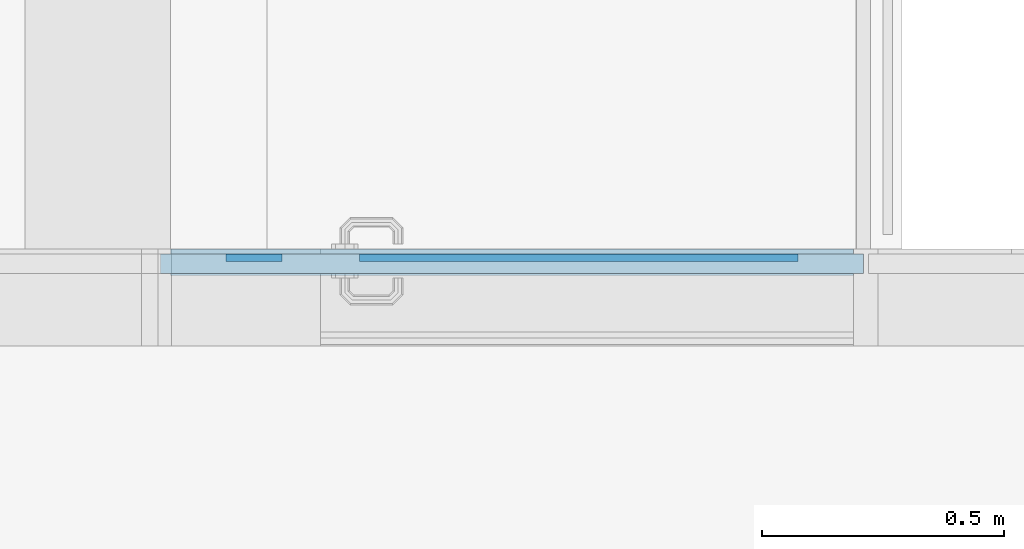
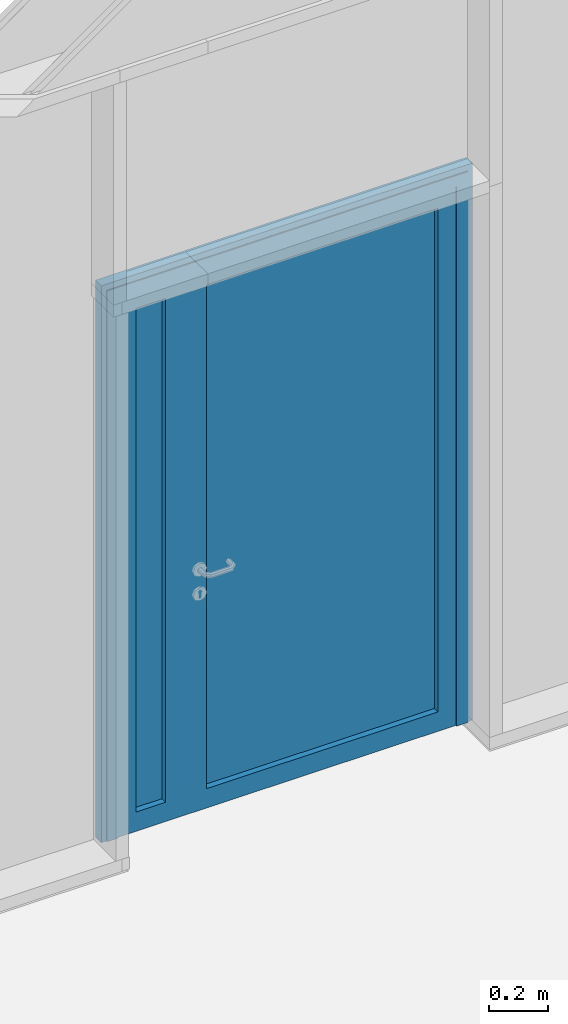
# One storey, part 62 of 153: 2 building element parts, 2 elements without a shape of their own.
"""IFC2X3 building model written with IfcOpenShell, lengths in millimetres."""

from ifc_helpers import new_model, entity, si_unit, converted_unit, derived_unit, money_unit, direction, frame, origin_with_axes, place, context, subcontext, project, spatial, faceted_brep, material, type_object, element, aggregate, save


model = new_model("IFC2X3")

# Units and contexts
model_context = context("Model", 3, precision=0.01, world=origin_with_axes(), true_north=direction((0.0, 1.0)))
body_context = subcontext(model_context, "Body", "Model", "MODEL_VIEW")
ifc_project = project(units=[si_unit("LENGTHUNIT", "METRE", prefix="MILLI"), si_unit("AREAUNIT", "SQUARE_METRE"), si_unit("VOLUMEUNIT", "CUBIC_METRE"), converted_unit("PLANEANGLEUNIT", "DEGREE", entity("IfcPlaneAngleMeasure", 0.0174532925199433), si_unit("PLANEANGLEUNIT", "RADIAN"), dimensions=[0, 0, 0, 0, 0, 0, 0]), money_unit("EUR"), converted_unit("TIMEUNIT", "Year", entity("IfcTimeMeasure", 31557600.0), si_unit("TIMEUNIT", "SECOND"), dimensions=[0, 0, 1, 0, 0, 0, 0]), si_unit("MASSUNIT", "GRAM", prefix="KILO"), si_unit("THERMODYNAMICTEMPERATUREUNIT", "DEGREE_CELSIUS"), si_unit("LUMINOUSINTENSITYUNIT", "LUMEN"), si_unit("ENERGYUNIT", "JOULE", prefix="MEGA"), derived_unit("THERMALCONDUCTANCEUNIT", [(si_unit("POWERUNIT", "WATT"), 1), (si_unit("LENGTHUNIT", "METRE"), -1), (si_unit("THERMODYNAMICTEMPERATUREUNIT", "KELVIN"), -1)]), derived_unit("SPECIFICHEATCAPACITYUNIT", [(si_unit("ENERGYUNIT", "JOULE"), 1), (si_unit("MASSUNIT", "GRAM", prefix="KILO"), -1), (si_unit("THERMODYNAMICTEMPERATUREUNIT", "KELVIN"), -1)]), derived_unit("MASSDENSITYUNIT", [(si_unit("MASSUNIT", "GRAM", prefix="KILO"), 1), (si_unit("VOLUMEUNIT", "CUBIC_METRE"), -1)])], contexts=[model_context])

# Site, building, storey
site_placement = place(None, frame((0.0, 0.0, 8650.0), z_axis=(0.0, 0.0, 1.0), x_axis=(1.0, 0.0, 0.0)))
site = spatial("IfcSite", under=ifc_project, at=site_placement, Name="43301:001:0844", CompositionType="ELEMENT")
building_placement = place(site_placement, origin_with_axes())
building = spatial("IfcBuilding", under=site, at=building_placement, Name="Kuressaare Ametikooli tuulikute mehaanikute õppekorpus", CompositionType="ELEMENT")
storey_placement = place(building_placement, frame((0.0, 0.0, 4100.0), z_axis=(0.0, 0.0, 1.0), x_axis=(1.0, 0.0, 0.0)))
storey = spatial("IfcBuildingStorey", under=building, at=storey_placement, Name="2.korrus", CompositionType="ELEMENT", Elevation=4100.0)

# Curtain wall, door, building element parts
curtain_wall_type = type_object("IfcCurtainWallType", Name="Curtain Wall Type", PredefinedType="NOTDEFINED")
curtain_wall_placement = place(storey_placement, frame((107592.1026822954, 26479.57374875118, 34.9999663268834), z_axis=(0.0, 0.0, 1.0), x_axis=(1.0, 0.0, 0.0)))
curtain_wall = element("IfcCurtainWall", 1, at=curtain_wall_placement, inside=storey, type_object=curtain_wall_type, Name="SKF-2.1,EI60")
door_style = type_object("IfcDoorStyle", Name="20 x 5 x 40", ConstructionType="NOTDEFINED", OperationType="DOUBLE_DOOR_SINGLE_SWING", ParameterTakesPrecedence=False, Sizeable=False)
door_placement = place(curtain_wall_placement, frame((-1273.110262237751, 0.0, 1022.222227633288), z_axis=(0.0, 0.0, 1.0), x_axis=(1.0, 0.0, 0.0)))
door = element("IfcDoor", 2, at=door_placement, type_object=door_style, Name="AKU10+4,EI30", OverallHeight=2275.0, OverallWidth=1410.0)
aggregate(curtain_wall, [door])
ifc_material_1 = material(Name="Aluminium")
building_element_part_1_placement = place(door_placement, origin_with_axes())
building_element_part_1 = element("IfcBuildingElementPart", 3, at=building_element_part_1_placement, material=ifc_material_1, Name="Aluminium", context=body_context, shape_type="Brep", body=[
    faceted_brep([(798.110245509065, -25.00000000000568, -1022.222227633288), (798.110245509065, -20.00000000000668, -1022.222227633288), (798.110245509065, -20.00000000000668, 1252.777807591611), (798.110245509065, -25.00000000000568, 1252.777807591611), (753.1102455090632, -25.00000000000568, -1022.222227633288), (753.1102455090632, -20.00000000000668, -1022.222227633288), (753.1102455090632, -20.00000000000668, 1207.777807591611), (753.1102455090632, -25.00000000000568, 1207.777807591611)], [[[0, 1, 2, 3]], [[4, 5, 1, 0]], [[1, 5, 6, 2]], [[3, 2, 6, 7]], [[0, 3, 7, 4]], [[7, 6, 5, 4]]]),
    faceted_brep([(-611.8897602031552, -25.00000000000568, 1252.777807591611), (-611.8897602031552, -20.00000000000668, 1252.777807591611), (-566.8897602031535, -20.00000000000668, 1207.777807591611), (-566.8897602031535, -25.00000000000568, 1207.777807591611), (798.110245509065, -25.00000000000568, 1252.777807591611), (798.110245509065, -20.00000000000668, 1252.777807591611), (753.1102455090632, -20.00000000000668, 1207.777807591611), (753.1102455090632, -25.00000000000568, 1207.777807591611)], [[[0, 1, 2, 3]], [[4, 5, 1, 0]], [[1, 5, 6, 2]], [[3, 2, 6, 7]], [[0, 3, 7, 4]], [[7, 6, 5, 4]]]),
    faceted_brep([(-611.8897602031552, -25.00000000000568, -1022.222227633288), (-611.8897602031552, -20.00000000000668, -1022.222227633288), (-566.8897602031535, -20.00000000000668, -1022.222227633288), (-566.8897602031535, -25.00000000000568, -1022.222227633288), (-611.8897602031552, -25.00000000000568, 1252.777807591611), (-611.8897602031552, -20.00000000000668, 1252.777807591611), (-566.8897602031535, -20.00000000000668, 1207.777807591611), (-566.8897602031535, -25.00000000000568, 1207.777807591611)], [[[0, 1, 2, 3]], [[4, 5, 1, 0]], [[1, 5, 6, 2]], [[3, 2, 6, 7]], [[0, 3, 7, 4]], [[7, 6, 5, 4]]]),
    faceted_brep([(798.110245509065, -20.00000000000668, -1022.222227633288), (798.110245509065, 29.99999999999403, -1022.222227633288), (798.110245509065, 29.99999999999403, 1252.777807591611), (798.110245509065, -20.00000000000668, 1252.777807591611), (763.1102455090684, -20.00000000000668, -1022.222227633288), (763.1102455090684, 29.99999999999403, -1022.222227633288), (763.1102455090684, 29.99999999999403, 1217.777807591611), (763.1102455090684, -20.00000000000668, 1217.777807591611)], [[[0, 1, 2, 3]], [[4, 5, 1, 0]], [[1, 5, 6, 2]], [[3, 2, 6, 7]], [[0, 3, 7, 4]], [[7, 6, 5, 4]]]),
    faceted_brep([(-611.8897602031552, -20.00000000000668, 1252.777807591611), (-611.8897602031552, 29.99999999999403, 1252.777807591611), (-576.8897602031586, 29.99999999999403, 1217.777807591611), (-576.8897602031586, -20.00000000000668, 1217.777807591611), (798.110245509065, -20.00000000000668, 1252.777807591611), (798.110245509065, 29.99999999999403, 1252.777807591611), (763.1102455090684, 29.99999999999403, 1217.777807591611), (763.1102455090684, -20.00000000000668, 1217.777807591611)], [[[0, 1, 2, 3]], [[4, 5, 1, 0]], [[1, 5, 6, 2]], [[3, 2, 6, 7]], [[0, 3, 7, 4]], [[7, 6, 5, 4]]]),
    faceted_brep([(-611.8897602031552, -20.00000000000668, -1022.222227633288), (-611.8897602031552, 29.99999999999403, -1022.222227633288), (-576.8897602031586, 29.99999999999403, -1022.222227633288), (-576.8897602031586, -20.00000000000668, -1022.222227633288), (-611.8897602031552, -20.00000000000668, 1252.777807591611), (-611.8897602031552, 29.99999999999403, 1252.777807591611), (-576.8897602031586, 29.99999999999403, 1217.777807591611), (-576.8897602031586, -20.00000000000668, 1217.777807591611)], [[[0, 1, 2, 3]], [[4, 5, 1, 0]], [[1, 5, 6, 2]], [[3, 2, 6, 7]], [[0, 3, 7, 4]], [[7, 6, 5, 4]]]),
    faceted_brep([(818.1102531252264, -20.00000000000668, -1022.222227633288), (818.1102531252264, 19.99999999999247, -1022.222227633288), (818.1102531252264, 19.99999999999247, 1277.777791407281), (818.1102531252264, -20.00000000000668, 1277.777791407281), (798.110245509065, -20.00000000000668, -1022.222227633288), (798.110245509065, 19.99999999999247, -1022.222227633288), (798.110245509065, 19.99999999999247, 1252.777807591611), (798.110245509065, -20.00000000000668, 1252.777807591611)], [[[0, 1, 2, 3]], [[4, 5, 1, 0]], [[1, 5, 6, 2]], [[3, 2, 6, 7]], [[0, 3, 7, 4]], [[7, 6, 5, 4]]]),
    faceted_brep([(818.1102531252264, -20.00000000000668, 1277.777791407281), (818.1102531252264, 19.99999999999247, 1277.777791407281), (-631.8897335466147, 19.99999999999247, 1277.777791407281), (-631.8897335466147, -20.00000000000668, 1277.777791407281), (798.110245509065, -20.00000000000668, 1252.777807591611), (798.110245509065, 19.99999999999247, 1252.777807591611), (-611.8897602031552, 19.99999999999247, 1252.777807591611), (-611.8897602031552, -20.00000000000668, 1252.777807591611)], [[[0, 1, 2, 3]], [[4, 5, 1, 0]], [[1, 5, 6, 2]], [[3, 2, 6, 7]], [[0, 3, 7, 4]], [[7, 6, 5, 4]]]),
    faceted_brep([(-631.8897335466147, -20.00000000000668, 1277.777791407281), (-631.8897335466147, 19.99999999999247, 1277.777791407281), (-631.8897335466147, 19.99999999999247, -1022.222227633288), (-631.8897335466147, -20.00000000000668, -1022.222227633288), (-611.8897602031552, -20.00000000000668, 1252.777807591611), (-611.8897602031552, 19.99999999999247, 1252.777807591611), (-611.8897602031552, 19.99999999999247, -1022.222227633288), (-611.8897602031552, -20.00000000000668, -1022.222227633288)], [[[0, 1, 2, 3]], [[4, 5, 1, 0]], [[1, 5, 6, 2]], [[3, 2, 6, 7]], [[0, 3, 7, 4]], [[7, 6, 5, 4]]]),
    faceted_brep([(-496.8897602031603, -20.00000000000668, -942.2222276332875), (-496.8897602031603, 29.99999999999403, -942.2222276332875), (-496.8897602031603, 29.99999999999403, 1137.77780759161), (-496.8897602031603, -20.00000000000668, 1137.77780759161), (-576.8897602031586, -20.00000000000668, -1022.222227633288), (-576.8897602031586, 29.99999999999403, -1022.222227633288), (-576.8897602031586, 29.99999999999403, 1217.77780759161), (-576.8897602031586, -20.00000000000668, 1217.77780759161)], [[[0, 1, 2, 3]], [[4, 5, 1, 0]], [[1, 5, 6, 2]], [[3, 2, 6, 7]], [[0, 3, 7, 4]], [[7, 6, 5, 4]]]),
    faceted_brep([(-301.8897602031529, -20.00000000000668, -1022.222227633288), (-301.8897602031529, 29.99999999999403, -1022.222227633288), (-301.8897602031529, 29.99999999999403, 1217.77780759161), (-301.8897602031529, -20.00000000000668, 1217.77780759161), (-381.8897602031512, -20.00000000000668, -942.2222276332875), (-381.8897602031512, 29.99999999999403, -942.2222276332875), (-381.8897602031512, 29.99999999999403, 1137.77780759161), (-381.8897602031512, -20.00000000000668, 1137.77780759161)], [[[0, 1, 2, 3]], [[4, 5, 1, 0]], [[1, 5, 6, 2]], [[3, 2, 6, 7]], [[0, 3, 7, 4]], [[7, 6, 5, 4]]]),
    faceted_brep([(-301.8897602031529, -20.00000000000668, -1022.222227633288), (-301.8897602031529, 29.99999999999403, -1022.222227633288), (-381.8897602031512, 29.99999999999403, -942.2222276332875), (-381.8897602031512, -20.00000000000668, -942.2222276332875), (-576.8897602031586, -20.00000000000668, -1022.222227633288), (-576.8897602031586, 29.99999999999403, -1022.222227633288), (-496.8897602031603, 29.99999999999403, -942.2222276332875), (-496.8897602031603, -20.00000000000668, -942.2222276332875)], [[[0, 1, 2, 3]], [[4, 5, 1, 0]], [[1, 5, 6, 2]], [[3, 2, 6, 7]], [[0, 3, 7, 4]], [[7, 6, 5, 4]]]),
    faceted_brep([(-576.8897602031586, -20.00000000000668, 1217.77780759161), (-576.8897602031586, 29.99999999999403, 1217.77780759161), (-496.8897602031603, 29.99999999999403, 1137.77780759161), (-496.8897602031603, -20.00000000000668, 1137.77780759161), (-301.8897602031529, -20.00000000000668, 1217.77780759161), (-301.8897602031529, 29.99999999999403, 1217.77780759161), (-381.8897602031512, 29.99999999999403, 1137.77780759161), (-381.8897602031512, -20.00000000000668, 1137.77780759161)], [[[0, 1, 2, 3]], [[4, 5, 1, 0]], [[1, 5, 6, 2]], [[3, 2, 6, 7]], [[0, 3, 7, 4]], [[7, 6, 5, 4]]]),
    faceted_brep([(-221.8897602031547, -20.00000000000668, -942.2222276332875), (-221.8897602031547, 29.99999999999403, -942.2222276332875), (-221.8897602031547, 29.99999999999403, 1137.77780759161), (-221.8897602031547, -20.00000000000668, 1137.77780759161), (-301.8897602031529, -20.00000000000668, -1022.222227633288), (-301.8897602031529, 29.99999999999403, -1022.222227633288), (-301.8897602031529, 29.99999999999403, 1217.77780759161), (-301.8897602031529, -20.00000000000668, 1217.77780759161)], [[[0, 1, 2, 3]], [[4, 5, 1, 0]], [[1, 5, 6, 2]], [[3, 2, 6, 7]], [[0, 3, 7, 4]], [[7, 6, 5, 4]]]),
    faceted_brep([(763.1102455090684, -20.00000000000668, -1022.222227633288), (763.1102455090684, 29.99999999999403, -1022.222227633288), (763.1102455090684, 29.99999999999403, 1217.77780759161), (763.1102455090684, -20.00000000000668, 1217.77780759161), (683.1102455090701, -20.00000000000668, -942.2222276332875), (683.1102455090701, 29.99999999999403, -942.2222276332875), (683.1102455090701, 29.99999999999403, 1137.77780759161), (683.1102455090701, -20.00000000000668, 1137.77780759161)], [[[0, 1, 2, 3]], [[4, 5, 1, 0]], [[1, 5, 6, 2]], [[3, 2, 6, 7]], [[0, 3, 7, 4]], [[7, 6, 5, 4]]]),
    faceted_brep([(763.1102455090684, -20.00000000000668, -1022.222227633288), (763.1102455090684, 29.99999999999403, -1022.222227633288), (683.1102455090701, 29.99999999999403, -942.2222276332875), (683.1102455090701, -20.00000000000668, -942.2222276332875), (-301.8897602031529, -20.00000000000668, -1022.222227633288), (-301.8897602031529, 29.99999999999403, -1022.222227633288), (-221.8897602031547, 29.99999999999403, -942.2222276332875), (-221.8897602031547, -20.00000000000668, -942.2222276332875)], [[[0, 1, 2, 3]], [[4, 5, 1, 0]], [[1, 5, 6, 2]], [[3, 2, 6, 7]], [[0, 3, 7, 4]], [[7, 6, 5, 4]]]),
    faceted_brep([(-301.8897602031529, -20.00000000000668, 1217.77780759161), (-301.8897602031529, 29.99999999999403, 1217.77780759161), (-221.8897602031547, 29.99999999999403, 1137.77780759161), (-221.8897602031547, -20.00000000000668, 1137.77780759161), (763.1102455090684, -20.00000000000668, 1217.77780759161), (763.1102455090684, 29.99999999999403, 1217.77780759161), (683.1102455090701, 29.99999999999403, 1137.77780759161), (683.1102455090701, -20.00000000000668, 1137.77780759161)], [[[0, 1, 2, 3]], [[4, 5, 1, 0]], [[1, 5, 6, 2]], [[3, 2, 6, 7]], [[0, 3, 7, 4]], [[7, 6, 5, 4]]]),
])
ifc_material_2 = material(Name="Klaas")
building_element_part_2_placement = place(door_placement, origin_with_axes())
building_element_part_2 = element("IfcBuildingElementPart", 4, at=building_element_part_2_placement, material=ifc_material_2, Name="Klaas", context=body_context, shape_type="Brep", body=[
    faceted_brep([(-496.8897602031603, 3.99999999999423, -942.2222276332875), (-496.8897602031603, 19.99999999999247, -942.2222276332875), (-381.8897602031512, 19.99999999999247, -942.2222276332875), (-381.8897602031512, 3.99999999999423, -942.2222276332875), (-496.8897602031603, 3.99999999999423, 1137.77780759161), (-496.8897602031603, 19.99999999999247, 1137.77780759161), (-381.8897602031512, 19.99999999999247, 1137.77780759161), (-381.8897602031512, 3.99999999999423, 1137.77780759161)], [[[0, 1, 2, 3]], [[4, 5, 1, 0]], [[1, 5, 6, 2]], [[3, 2, 6, 7]], [[0, 3, 7, 4]], [[7, 6, 5, 4]]]),
    faceted_brep([(-221.8897602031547, 3.99999999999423, -942.2222276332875), (-221.8897602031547, 19.99999999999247, -942.2222276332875), (683.1102455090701, 19.99999999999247, -942.2222276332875), (683.1102455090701, 3.99999999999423, -942.2222276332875), (-221.8897602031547, 3.99999999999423, 1137.77780759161), (-221.8897602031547, 19.99999999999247, 1137.77780759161), (683.1102455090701, 19.99999999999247, 1137.77780759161), (683.1102455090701, 3.99999999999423, 1137.77780759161)], [[[0, 1, 2, 3]], [[4, 5, 1, 0]], [[1, 5, 6, 2]], [[3, 2, 6, 7]], [[0, 3, 7, 4]], [[7, 6, 5, 4]]]),
])
aggregate(door, [building_element_part_1, building_element_part_2])

save(model, "model.ifc")
